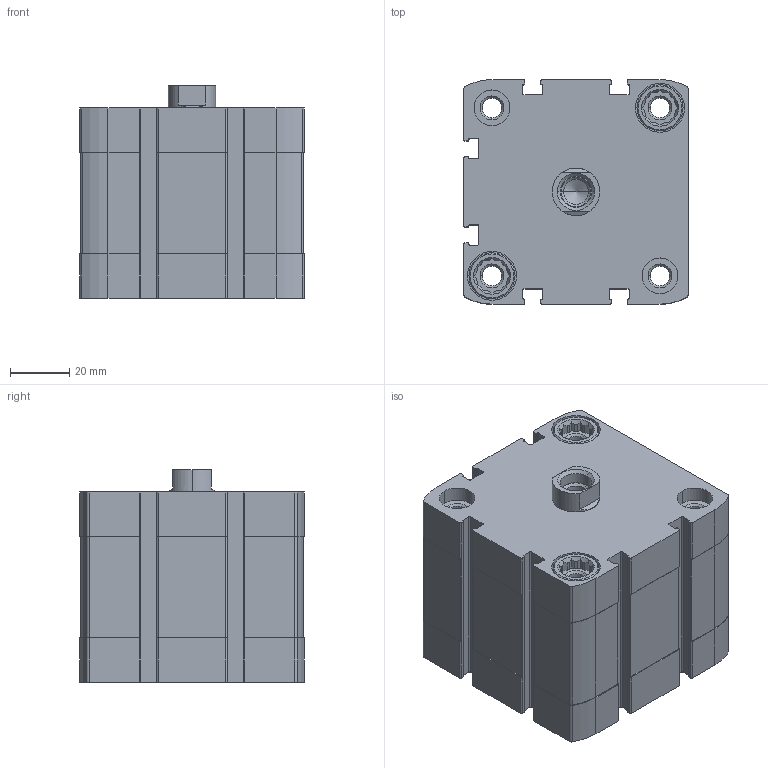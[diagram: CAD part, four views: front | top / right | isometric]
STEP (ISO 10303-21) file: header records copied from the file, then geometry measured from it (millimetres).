
FILE_DESCRIPTION (( 'STEP AP203' ), '1' );
FILE_NAME ('CCN63-15F.STEP', '2017-04-06T12:59:43', ( '' ), ( '' ), 'SwSTEP 2.0', 'SolidWorks 2016', '' );
FILE_SCHEMA (( 'CONFIG_CONTROL_DESIGN' ));
Length unit declared in the file: millimetre
Products named in the file (3): _536330 ADN-15-P-I_(KS); CCN63-15F; _536330 ADN-15-P---(Z)
Assembly tree (2 placements, depth 2):
  CCN63-15F
    _536330 ADN-15-P---(Z)
    _536330 ADN-15-P-I_(KS)
Bounding box: 75.5 x 75.5 x 71.5 mm (x, y, z)
Volume: 289513.4 mm3; surface area: 68745.6 mm2
Topology: 2 solids, 2 shells, 471 faces, 1272 edges, 835 vertices
Faces by surface type: plane 219, cylinder 210, cone 42
Entity records: 15289 total; most frequent: CARTESIAN_POINT 2875, DIRECTION 2592, ORIENTED_EDGE 2540, EDGE_CURVE 1270, AXIS2_PLACEMENT_3D 944, VERTEX_POINT 835, LINE 704, VECTOR 704
